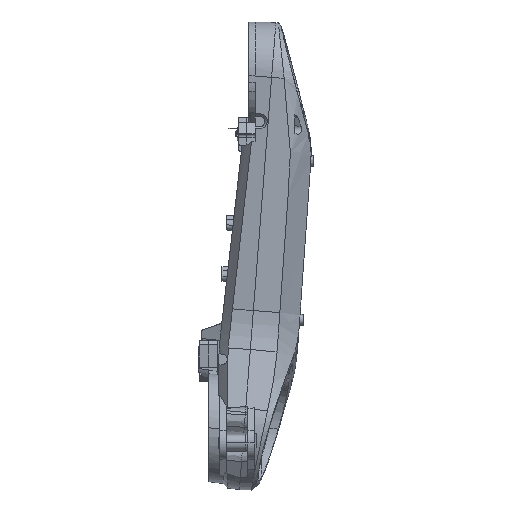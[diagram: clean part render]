
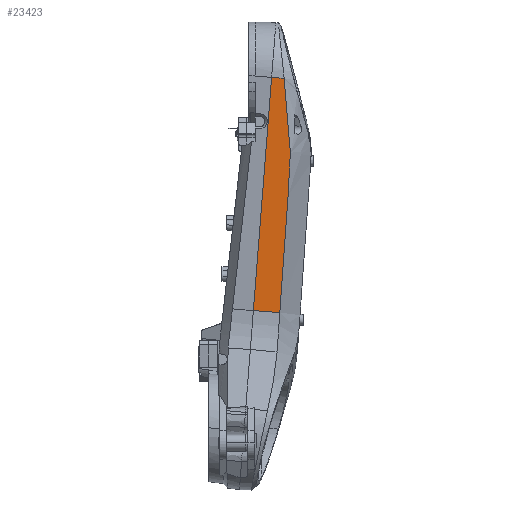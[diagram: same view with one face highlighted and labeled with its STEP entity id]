
A CAD part, left-side view. The second image highlights one B-rep face of the part: STEP entity #23423.
In plain terms, the highlighted planar face has unit normal (-0.996, -0.047, -0.073).
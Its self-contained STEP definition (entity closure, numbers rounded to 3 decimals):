
#151 = CARTESIAN_POINT ( 'NONE',  ( 221.093, -320.039, 1131.157 ) ) ;
#1665 = CARTESIAN_POINT ( 'NONE',  ( 183.346, -343.772, 1659.161 ) ) ;
#3443 = DIRECTION ( 'NONE',  ( -0.996, -0.047, -0.073 ) ) ;
#4790 = CARTESIAN_POINT ( 'NONE',  ( 191.752, -349.564, 1548.638 ) ) ;
#5154 = CARTESIAN_POINT ( 'NONE',  ( 222.097, -319.056, 1116.882 ) ) ;
#5922 = EDGE_CURVE ( 'NONE', #72264, #48849, #35761, .T. ) ;
#6120 = ORIENTED_EDGE ( 'NONE', *, *, #65210, .F. ) ;
#6277 = CARTESIAN_POINT ( 'NONE',  ( 212.066, -329.139, 1259.613 ) ) ;
#7432 = CARTESIAN_POINT ( 'NONE',  ( 173.68, -333.608, 1784.008 ) ) ;
#8181 = CARTESIAN_POINT ( 'NONE',  ( 176.166, -336.229, 1751.905 ) ) ;
#10500 = CARTESIAN_POINT ( 'NONE',  ( 190.596, -350.103, 1564.691 ) ) ;
#11230 = CARTESIAN_POINT ( 'NONE',  ( 192.256, -349.12, 1541.502 ) ) ;
#11616 = CARTESIAN_POINT ( 'NONE',  ( 193.259, -348.104, 1527.229 ) ) ;
#11987 = CARTESIAN_POINT ( 'NONE',  ( 215.075, -326.104, 1216.794 ) ) ;
#12364 = CARTESIAN_POINT ( 'NONE',  ( 177.817, -337.835, 1730.49 ) ) ;
#13148 = CARTESIAN_POINT ( 'NONE',  ( 178.644, -338.653, 1719.784 ) ) ;
#13525 = CARTESIAN_POINT ( 'NONE',  ( 184.455, -345.05, 1644.903 ) ) ;
#13907 = CARTESIAN_POINT ( 'NONE',  ( 173.401, -333.257, 1787.57 ) ) ;
#16242 = CARTESIAN_POINT ( 'NONE',  ( 191.37, -349.815, 1553.989 ) ) ;
#16606 = CARTESIAN_POINT ( 'NONE',  ( 196.018, -345.323, 1487.978 ) ) ;
#16990 = CARTESIAN_POINT ( 'NONE',  ( 190.985, -349.995, 1559.34 ) ) ;
#17353 = CARTESIAN_POINT ( 'NONE',  ( 221.846, -319.29, 1120.451 ) ) ;
#17735 = CARTESIAN_POINT ( 'NONE',  ( 190.726, -350.075, 1562.907 ) ) ;
#18116 = CARTESIAN_POINT ( 'NONE',  ( 172.283, -331.764, 1801.808 ) ) ;
#18498 = CARTESIAN_POINT ( 'NONE',  ( 181.129, -341.275, 1687.681 ) ) ;
#18831 = LINE ( 'NONE', #42098, #27965 ) ;
#20126 = VERTEX_POINT ( 'NONE', #72024 ) ;
#20675 = EDGE_LOOP ( 'NONE', ( #37300, #22428, #6120, #26882 ) ) ;
#21527 = LINE ( 'NONE', #32986, #55475 ) ;
#21966 = CARTESIAN_POINT ( 'NONE',  ( 192.507, -348.867, 1537.933 ) ) ;
#22334 = CARTESIAN_POINT ( 'NONE',  ( 211.063, -330.151, 1273.885 ) ) ;
#22428 = ORIENTED_EDGE ( 'NONE', *, *, #5922, .T. ) ;
#22701 = CARTESIAN_POINT ( 'NONE',  ( 220.842, -320.292, 1134.725 ) ) ;
#23069 = CARTESIAN_POINT ( 'NONE',  ( 194.513, -346.842, 1509.388 ) ) ;
#23423 = ADVANCED_FACE ( 'NONE', ( #24481 ), #42789, .T. ) ;
#23447 = CARTESIAN_POINT ( 'NONE',  ( 189.944, -350.189, 1573.607 ) ) ;
#24223 = CARTESIAN_POINT ( 'NONE',  ( 172.843, -332.526, 1794.69 ) ) ;
#24481 = FACE_OUTER_BOUND ( 'NONE', #20675, .T. ) ;
#24983 = CARTESIAN_POINT ( 'NONE',  ( 180.022, -340.054, 1701.944 ) ) ;
#25361 = CARTESIAN_POINT ( 'NONE',  ( 176.716, -336.758, 1744.766 ) ) ;
#26882 = ORIENTED_EDGE ( 'NONE', *, *, #46169, .T. ) ;
#27965 = VECTOR ( 'NONE', #30693, 1000. ) ;
#28060 = CARTESIAN_POINT ( 'NONE',  ( 186.675, -347.644, 1616.389 ) ) ;
#29196 = CARTESIAN_POINT ( 'NONE',  ( 197.021, -344.312, 1473.705 ) ) ;
#29577 = CARTESIAN_POINT ( 'NONE',  ( 220.09, -321.048, 1145.43 ) ) ;
#29968 = CARTESIAN_POINT ( 'NONE',  ( 185.843, -346.668, 1627.082 ) ) ;
#30693 = DIRECTION ( 'NONE',  ( 0.052, -0.996, -0.074 ) ) ;
#30746 = CARTESIAN_POINT ( 'NONE',  ( 178.368, -338.379, 1723.353 ) ) ;
#32986 = CARTESIAN_POINT ( 'NONE',  ( 171.747, -293.635, 1784.783 ) ) ;
#34549 = CARTESIAN_POINT ( 'NONE',  ( 189.413, -350.069, 1580.74 ) ) ;
#34595 = CARTESIAN_POINT ( 'NONE',  ( 170.365, -295.181, 1804.537 ) ) ;
#35686 = CARTESIAN_POINT ( 'NONE',  ( 175.339, -335.411, 1762.611 ) ) ;
#35761 = B_SPLINE_CURVE_WITH_KNOTS ( 'NONE', 3,
 ( #5154, #17353, #69340, #151, #22701, #29577, #69727, #75448, #40242, #40634, #63623, #11987, #58286, #6277, #22334, #75074, #41018, #29196, #16606, #23069, #58663, #11616, #39865, #74340, #21966, #11230, #45987, #70099, #4790, #63250, #16242, #52519, #16990, #17735, #10500, #23447, #34549, #74707, #45247, #68592, #57166, #39508, #62885, #28060, #51387, #47918, #29968, #13525, #1665, #18498, #24983, #13148, #30746, #12364, #36835, #25361, #8181, #35686, #72002, #48687, #53663, #7432, #13907, #47527, #24223, #71241, #48296, #60183, #71619, #18116 ),
 .UNSPECIFIED., .F., .F.,
 ( 4, 2, 2, 2, 2, 2, 2, 2, 2, 2, 2, 2, 2, 2, 2, 2, 2, 2, 2, 2, 2, 2, 2, 2, 2, 2, 2, 2, 2, 2, 2, 2, 2, 2, 4 ),
 ( 0.009, 0.02, 0.03, 0.052, 0.073, 0.095, 0.138, 0.181, 0.353, 0.396, 0.418, 0.428, 0.434, 0.439, 0.444, 0.45, 0.455, 0.461, 0.482, 0.493, 0.504, 0.509, 0.514, 0.525, 0.568, 0.611, 0.622, 0.633, 0.654, 0.665, 0.676, 0.687, 0.692, 0.695, 0.697 ),
 .UNSPECIFIED. ) ;
#36835 = CARTESIAN_POINT ( 'NONE',  ( 177.542, -337.564, 1734.059 ) ) ;
#37300 = ORIENTED_EDGE ( 'NONE', *, *, #65838, .T. ) ;
#39508 = CARTESIAN_POINT ( 'NONE',  ( 187.092, -348.136, 1611.042 ) ) ;
#39865 = CARTESIAN_POINT ( 'NONE',  ( 193.008, -348.355, 1530.797 ) ) ;
#39905 = DIRECTION ( 'NONE',  ( 0.052, -0.996, -0.074 ) ) ;
#40242 = CARTESIAN_POINT ( 'NONE',  ( 218.084, -323.07, 1173.975 ) ) ;
#40634 = CARTESIAN_POINT ( 'NONE',  ( 217.081, -324.083, 1188.248 ) ) ;
#40680 = LINE ( 'NONE', #34595, #71751 ) ;
#41018 = CARTESIAN_POINT ( 'NONE',  ( 202.036, -339.253, 1402.341 ) ) ;
#42098 = CARTESIAN_POINT ( 'NONE',  ( 218.048, -241.816, 1122.644 ) ) ;
#42789 = PLANE ( 'NONE',  #73901 ) ;
#45247 = CARTESIAN_POINT ( 'NONE',  ( 188.333, -349.42, 1595.001 ) ) ;
#45987 = CARTESIAN_POINT ( 'NONE',  ( 192.131, -349.244, 1543.286 ) ) ;
#46169 = EDGE_CURVE ( 'NONE', #20126, #47009, #21527, .T. ) ;
#47009 = VERTEX_POINT ( 'NONE', #58855 ) ;
#47527 = CARTESIAN_POINT ( 'NONE',  ( 172.983, -332.712, 1792.91 ) ) ;
#47918 = CARTESIAN_POINT ( 'NONE',  ( 186.12, -346.993, 1623.517 ) ) ;
#48296 = CARTESIAN_POINT ( 'NONE',  ( 172.563, -332.152, 1798.249 ) ) ;
#48687 = CARTESIAN_POINT ( 'NONE',  ( 174.511, -334.555, 1773.314 ) ) ;
#48849 = VERTEX_POINT ( 'NONE', #73513 ) ;
#51387 = CARTESIAN_POINT ( 'NONE',  ( 186.537, -347.481, 1618.171 ) ) ;
#52519 = CARTESIAN_POINT ( 'NONE',  ( 191.113, -349.941, 1557.556 ) ) ;
#53663 = CARTESIAN_POINT ( 'NONE',  ( 174.235, -334.257, 1776.88 ) ) ;
#55475 = VECTOR ( 'NONE', #68149, 1000. ) ;
#57166 = CARTESIAN_POINT ( 'NONE',  ( 187.508, -348.619, 1605.696 ) ) ;
#58286 = CARTESIAN_POINT ( 'NONE',  ( 214.072, -327.117, 1231.067 ) ) ;
#58663 = CARTESIAN_POINT ( 'NONE',  ( 194.012, -347.347, 1516.524 ) ) ;
#58855 = CARTESIAN_POINT ( 'NONE',  ( 218.048, -241.816, 1122.644 ) ) ;
#60183 = CARTESIAN_POINT ( 'NONE',  ( 172.424, -331.964, 1800.029 ) ) ;
#61571 = CARTESIAN_POINT ( 'NONE',  ( 171.747, -293.635, 1784.783 ) ) ;
#62885 = CARTESIAN_POINT ( 'NONE',  ( 186.953, -347.972, 1612.824 ) ) ;
#63250 = CARTESIAN_POINT ( 'NONE',  ( 191.498, -349.739, 1552.205 ) ) ;
#63623 = CARTESIAN_POINT ( 'NONE',  ( 216.579, -324.587, 1195.385 ) ) ;
#65210 = EDGE_CURVE ( 'NONE', #20126, #48849, #40680, .T. ) ;
#65838 = EDGE_CURVE ( 'NONE', #47009, #72264, #18831, .T. ) ;
#67651 = DIRECTION ( 'NONE',  ( 0.073, 0., -0.997 ) ) ;
#68149 = DIRECTION ( 'NONE',  ( 0.07, 0.078, -0.995 ) ) ;
#68592 = CARTESIAN_POINT ( 'NONE',  ( 187.785, -348.926, 1602.131 ) ) ;
#69340 = CARTESIAN_POINT ( 'NONE',  ( 221.595, -319.538, 1124.02 ) ) ;
#69727 = CARTESIAN_POINT ( 'NONE',  ( 219.588, -321.551, 1152.566 ) ) ;
#70099 = CARTESIAN_POINT ( 'NONE',  ( 191.879, -349.466, 1546.854 ) ) ;
#71241 = CARTESIAN_POINT ( 'NONE',  ( 172.633, -332.246, 1797.36 ) ) ;
#71619 = CARTESIAN_POINT ( 'NONE',  ( 172.354, -331.868, 1800.919 ) ) ;
#71751 = VECTOR ( 'NONE', #39905, 1000. ) ;
#72002 = CARTESIAN_POINT ( 'NONE',  ( 175.064, -335.133, 1766.179 ) ) ;
#72024 = CARTESIAN_POINT ( 'NONE',  ( 170.365, -295.181, 1804.537 ) ) ;
#72101 = CARTESIAN_POINT ( 'NONE',  ( 222.097, -319.056, 1116.882 ) ) ;
#72264 = VERTEX_POINT ( 'NONE', #72101 ) ;
#73513 = CARTESIAN_POINT ( 'NONE',  ( 172.283, -331.764, 1801.808 ) ) ;
#73901 = AXIS2_PLACEMENT_3D ( 'NONE', #61571, #3443, #67651 ) ;
#74340 = CARTESIAN_POINT ( 'NONE',  ( 192.632, -348.738, 1536.149 ) ) ;
#74707 = CARTESIAN_POINT ( 'NONE',  ( 188.604, -349.613, 1591.436 ) ) ;
#75074 = CARTESIAN_POINT ( 'NONE',  ( 206.048, -335.208, 1345.25 ) ) ;
#75448 = CARTESIAN_POINT ( 'NONE',  ( 218.585, -322.562, 1166.839 ) ) ;
